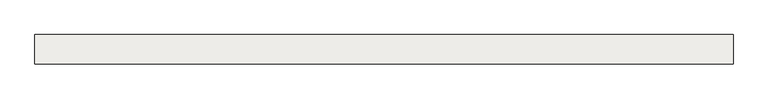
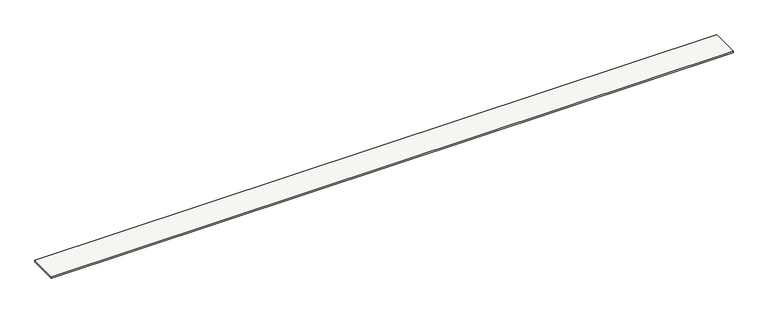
"""IFC4 building model written with IfcOpenShell, lengths in millimetres: slab geometry, Sol-02 - Tablette bois 2cm."""

from ifc_helpers import new_model, si_unit, origin, origin_with_axes, place, context, project, spatial, polyline, outline, extrude, source, transform, mapped, element, save


def slab_f3334f4b(model_context):
    return source(origin(), model_context, "Body", "SweptSolid", [
        extrude(outline(polyline([(67211.9999476, 0.0), (67211.9999476, 350.0), (75564.9999476, 350.0), (75564.9999476, 0.0), (67211.9999476, 0.0)])), origin_with_axes(), (0.0, 0.0, 1.0), 20.0),
    ])


if __name__ == "__main__":
    model = new_model("IFC4")
    model_context = context("Model", 3, world=origin())
    ifc_project = project(units=[si_unit("LENGTHUNIT", "METRE", prefix="MILLI")], contexts=[model_context])
    site = spatial("IfcSite", under=ifc_project)
    building = spatial("IfcBuilding", under=site)
    placement = place(None, origin())
    slab_shape = slab_f3334f4b(model_context)
    element("IfcSlab", 1, ObjectType="Sol-02 - Tablette bois 2cm", at=placement, inside=building, context=model_context, shape_type="MappedRepresentation", body=[
        mapped(slab_shape, transform((0.0, 0.0, 0.0), x_axis=(1.0, 0.0, 0.0), y_axis=(0.0, 1.0, 0.0), z_axis=(0.0, 0.0, 1.0))),
    ])
    save(model, "model.ifc")
